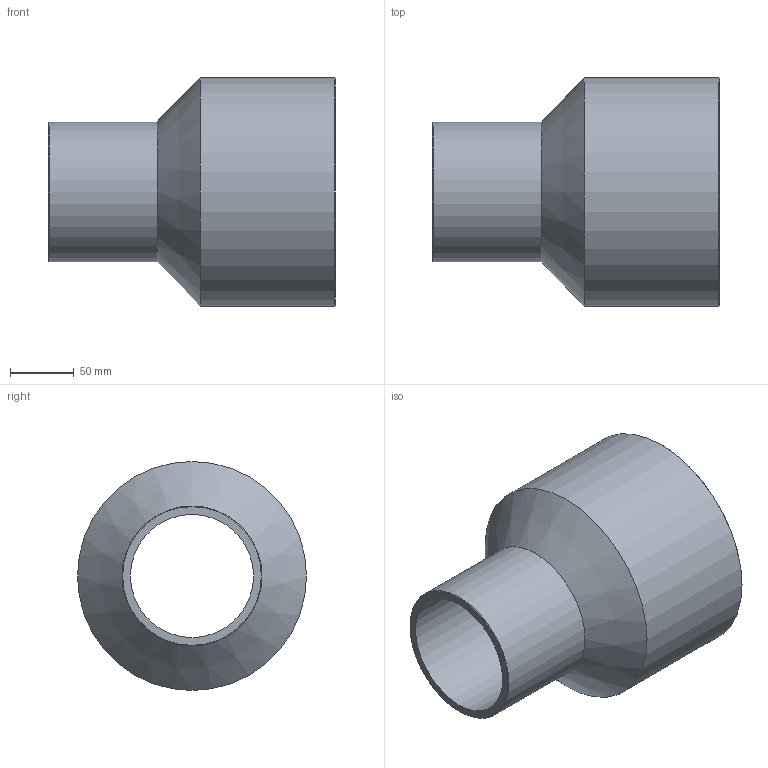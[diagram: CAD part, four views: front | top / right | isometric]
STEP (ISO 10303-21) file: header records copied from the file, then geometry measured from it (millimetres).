
FILE_DESCRIPTION(/* description */ ('Unknown'),/* implementation_level */ '2;1');
FILE_NAME(/* name */ 'RP180110B',/* time_stamp */ '2021-09-17T11:31:45+02:00',/* author */ ('Unknown'),/* organization */ ('Unknown'),/* preprocessor_version */ 'ST-DEVELOPER v16.7',/* originating_system */ 'Solid Edge',/* authorisation */ 'Unknown');
FILE_SCHEMA (('AUTOMOTIVE_DESIGN {1 0 10303 214 3 1 1}'));
Length unit declared in the file: millimetre
Products named in the file (1): RP180110B
Bounding box: 225 x 180 x 180 mm (x, y, z)
Volume: 1020625.5 mm3; surface area: 214260.5 mm2
Topology: 1 solids, 1 shells, 10 faces, 19 edges, 11 vertices
Faces by surface type: cylinder 4, cone 4, plane 2
Full cylindrical faces by diameter (mm): 96.8 x1, 110 x1, 158.6 x1, 180 x1
Entity records: 238 total; most frequent: DIRECTION 42, CARTESIAN_POINT 31, AXIS2_PLACEMENT_3D 21, ORIENTED_EDGE 20, EDGE_LOOP 20, FACE_BOUND 20, EDGE_CURVE 10, VERTEX_POINT 10
